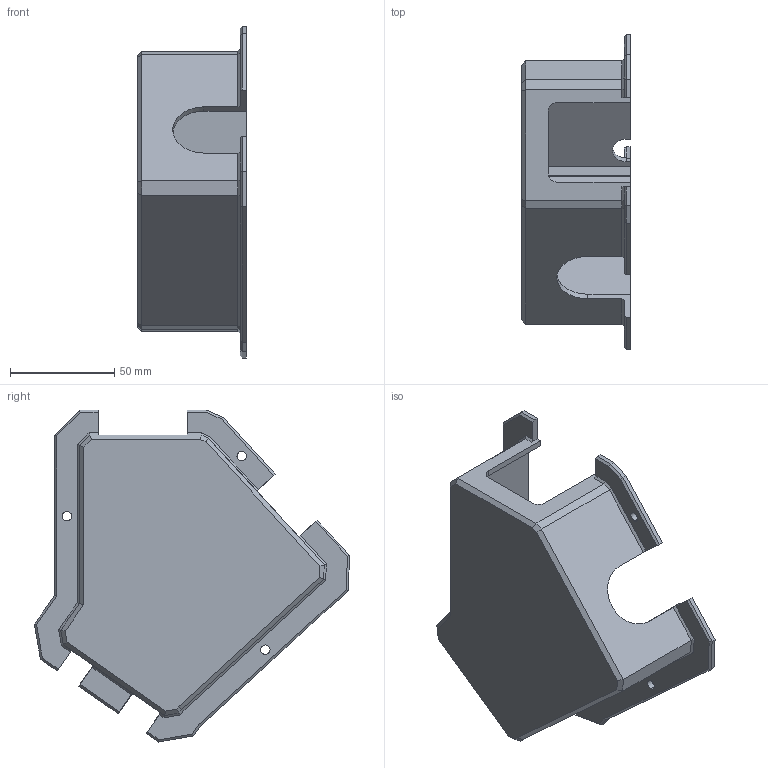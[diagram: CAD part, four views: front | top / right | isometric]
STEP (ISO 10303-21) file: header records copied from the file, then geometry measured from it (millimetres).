
FILE_DESCRIPTION (( 'STEP AP214' ), '1' );
FILE_NAME ('2023-07 - 350-700 NM COVER.STEP', '2023-11-26T11:11:41', ( '' ), ( '' ), 'SwSTEP 2.0', 'SolidWorks 2024', '' );
FILE_SCHEMA (( 'AUTOMOTIVE_DESIGN' ));
Length unit declared in the file: millimetre
Products named in the file (1): 2023-07 - 350-700 NM COVER
Bounding box: 52.12 x 151.28 x 159.29 mm (x, y, z)
Volume: 115351.6 mm3; surface area: 65027.7 mm2
Topology: 1 solids, 1 shells, 119 faces, 315 edges, 198 vertices
Faces by surface type: plane 105, cylinder 14
Entity records: 3624 total; most frequent: CARTESIAN_POINT 645, ORIENTED_EDGE 630, DIRECTION 579, EDGE_CURVE 315, LINE 283, VECTOR 283, VERTEX_POINT 198, AXIS2_PLACEMENT_3D 148
